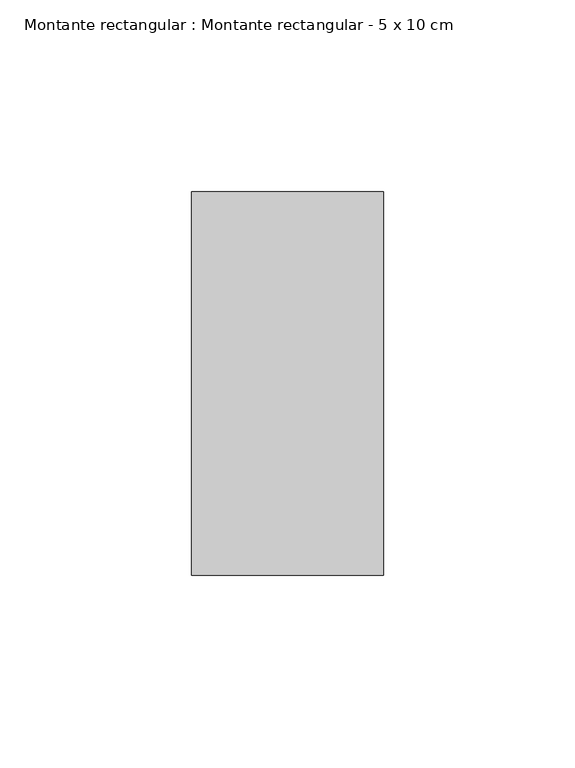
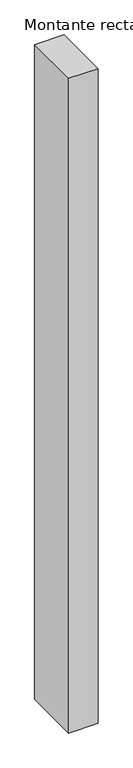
"""IFC4 building model written with IfcOpenShell, lengths in millimetres: member geometry, Montante rectangular : Montante rectangular - 5 x 10 cm."""

from ifc_helpers import new_model, si_unit, frame, origin, place, context, project, spatial, polyline, outline, extrude, source, transform, mapped, element, save


def montante_rectangular_montante_rectangular_5_x_10_cm_a1cff000(model_context):
    return source(origin(), model_context, "Body", "SweptSolid", [
        extrude(outline(polyline([(-50.0, 50.0), (0.0, 50.0), (0.0, -50.0), (-50.0, -50.0), (-50.0, 50.0)])), frame((0.0, 0.0, -1175.0), z_axis=(0.0, 0.0, 1.0), x_axis=(1.0, 0.0, 0.0)), (0.0, 0.0, 1.0), 1175.0),
    ])


if __name__ == "__main__":
    model = new_model("IFC4")
    model_context = context("Model", 3, world=origin())
    ifc_project = project(units=[si_unit("LENGTHUNIT", "METRE", prefix="MILLI")], contexts=[model_context])
    site = spatial("IfcSite", under=ifc_project)
    building = spatial("IfcBuilding", under=site)
    placement = place(None, origin())
    montante_rectangular_montante_rectangular_5_x_10_cm_shape = montante_rectangular_montante_rectangular_5_x_10_cm_a1cff000(model_context)
    element("IfcMember", 1, ObjectType="Montante rectangular : Montante rectangular - 5 x 10 cm", at=placement, inside=building, context=model_context, shape_type="MappedRepresentation", body=[
        mapped(montante_rectangular_montante_rectangular_5_x_10_cm_shape, transform((0.0, 0.0, 0.0), x_axis=(1.0, 0.0, 0.0), y_axis=(0.0, 1.0, 0.0), z_axis=(0.0, 0.0, 1.0))),
    ])
    save(model, "model.ifc")
